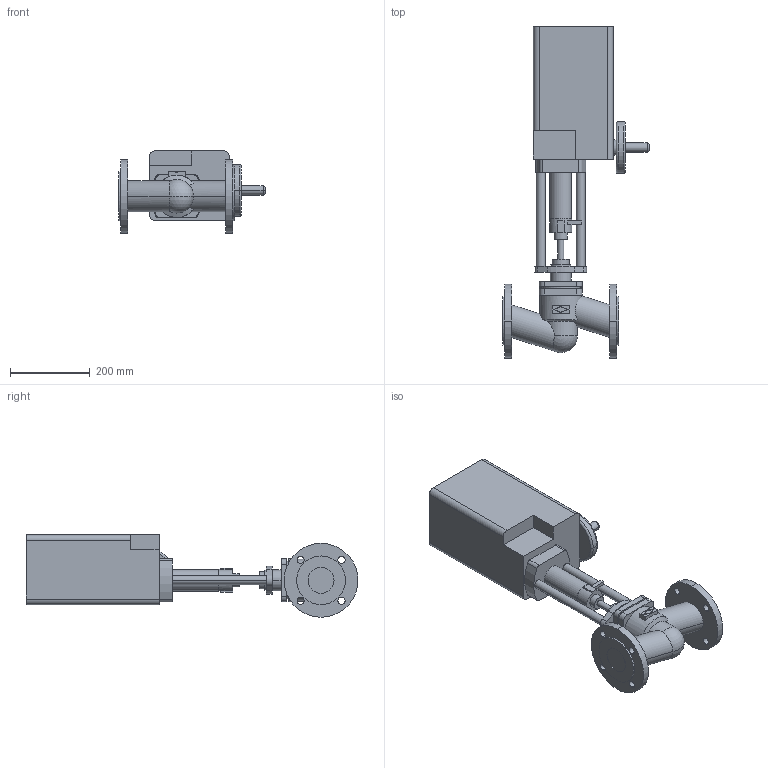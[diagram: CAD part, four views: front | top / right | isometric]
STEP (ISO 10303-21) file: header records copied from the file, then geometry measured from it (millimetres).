
FILE_DESCRIPTION(('OneSpaceDesigner STEP Export'),'2;1');
FILE_NAME('c000001185.stp','2005-01-05T12:48:30',(''),(''),'OneSpace Designer STEP processor (Jan. 2003) for AP203(Solid Model)','OneSpace Designer 12.01D 09-Jul-2004 (C) CoCreate Software GmbH','');
FILE_SCHEMA(('CONFIG_CONTROL_DESIGN'));
Length unit declared in the file: millimetre
Products named in the file (1): 1
Bounding box: 366.6 x 832 x 206.5 mm (x, y, z)
Volume: 15980701 mm3; surface area: 686929.9 mm2
Topology: 1 solids, 1 shells, 173 faces, 427 edges, 281 vertices
Faces by surface type: cylinder 84, plane 79, torus 6, cone 2, sphere 2
Entity records: 5073 total; most frequent: CARTESIAN_POINT 1083, ORIENTED_EDGE 850, DIRECTION 750, EDGE_CURVE 425, VERTEX_POINT 281, AXIS2_PLACEMENT_3D 265, VECTOR 220, LINE 220
